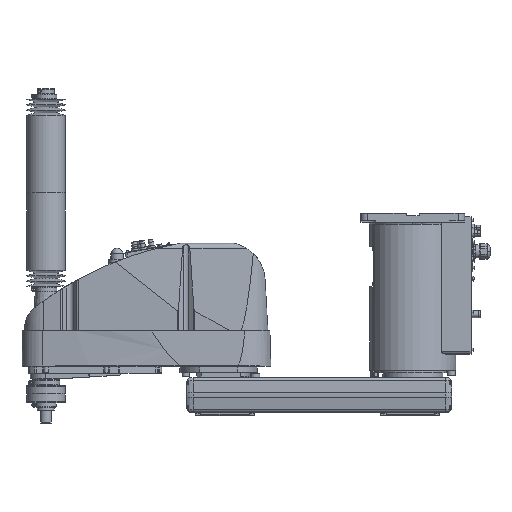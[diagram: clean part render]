
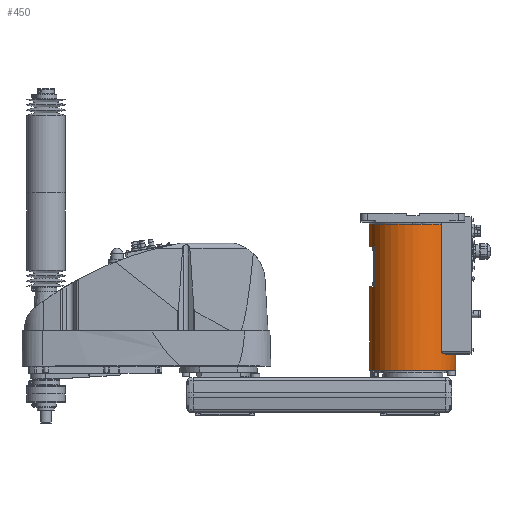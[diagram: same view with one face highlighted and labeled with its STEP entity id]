
A CAD part, top view. The second image highlights one B-rep face of the part: STEP entity #450.
In plain terms, the highlighted cylindrical face has radius 100 mm (diameter 200 mm), a partial arc.
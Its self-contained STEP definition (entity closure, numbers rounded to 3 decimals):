
#450 = ADVANCED_FACE( '', ( #2501 ), #2502, .T. );
#2501 = FACE_OUTER_BOUND( '', #6844, .T. );
#2502 = CYLINDRICAL_SURFACE( '', #6845, 100. );
#6844 = EDGE_LOOP( '', ( #11381, #11382, #11383, #11384, #11385, #11386, #11387, #11388, #11389, #11390, #11391, #11392, #11393, #11394, #11395, #11396 ) );
#6845 = AXIS2_PLACEMENT_3D( '', #11397, #11398, #11399 );
#11381 = ORIENTED_EDGE( '', *, *, #27055, .F. );
#11382 = ORIENTED_EDGE( '', *, *, #27056, .T. );
#11383 = ORIENTED_EDGE( '', *, *, #27057, .T. );
#11384 = ORIENTED_EDGE( '', *, *, #27058, .T. );
#11385 = ORIENTED_EDGE( '', *, *, #27059, .T. );
#11386 = ORIENTED_EDGE( '', *, *, #27060, .T. );
#11387 = ORIENTED_EDGE( '', *, *, #27061, .T. );
#11388 = ORIENTED_EDGE( '', *, *, #27062, .T. );
#11389 = ORIENTED_EDGE( '', *, *, #27063, .T. );
#11390 = ORIENTED_EDGE( '', *, *, #27064, .T. );
#11391 = ORIENTED_EDGE( '', *, *, #27065, .F. );
#11392 = ORIENTED_EDGE( '', *, *, #27066, .T. );
#11393 = ORIENTED_EDGE( '', *, *, #27067, .T. );
#11394 = ORIENTED_EDGE( '', *, *, #27068, .T. );
#11395 = ORIENTED_EDGE( '', *, *, #27069, .F. );
#11396 = ORIENTED_EDGE( '', *, *, #27070, .F. );
#11397 = CARTESIAN_POINT( '', ( 0., 194., 0. ) );
#11398 = DIRECTION( '', ( 0., 1., 0. ) );
#11399 = DIRECTION( '', ( 1., 0., 0. ) );
#27055 = EDGE_CURVE( '', #32088, #32089, #32090, .T. );
#27056 = EDGE_CURVE( '', #32088, #32091, #32092, .T. );
#27057 = EDGE_CURVE( '', #32091, #32093, #32094, .T. );
#27058 = EDGE_CURVE( '', #32093, #32095, #32096, .T. );
#27059 = EDGE_CURVE( '', #32095, #32097, #32098, .T. );
#27060 = EDGE_CURVE( '', #32097, #32099, #32100, .T. );
#27061 = EDGE_CURVE( '', #32099, #32101, #32102, .T. );
#27062 = EDGE_CURVE( '', #32101, #32103, #32104, .T. );
#27063 = EDGE_CURVE( '', #32103, #32105, #32106, .T. );
#27064 = EDGE_CURVE( '', #32105, #32107, #32108, .T. );
#27065 = EDGE_CURVE( '', #32109, #32107, #32110, .T. );
#27066 = EDGE_CURVE( '', #32109, #32111, #32112, .T. );
#27067 = EDGE_CURVE( '', #32111, #32113, #32114, .T. );
#27068 = EDGE_CURVE( '', #32113, #32115, #32116, .T. );
#27069 = EDGE_CURVE( '', #32117, #32115, #32118, .T. );
#27070 = EDGE_CURVE( '', #32089, #32117, #32119, .T. );
#32088 = VERTEX_POINT( '', #40214 );
#32089 = VERTEX_POINT( '', #40215 );
#32090 = LINE( '', #40216, #40217 );
#32091 = VERTEX_POINT( '', #40218 );
#32092 = CIRCLE( '', #40219, 100. );
#32093 = VERTEX_POINT( '', #40220 );
#32094 = LINE( '', #40221, #40222 );
#32095 = VERTEX_POINT( '', #40223 );
#32096 = CIRCLE( '', #40224, 100. );
#32097 = VERTEX_POINT( '', #40225 );
#32098 = LINE( '', #40226, #40227 );
#32099 = VERTEX_POINT( '', #40228 );
#32100 = CIRCLE( '', #40229, 100. );
#32101 = VERTEX_POINT( '', #40230 );
#32102 = B_SPLINE_CURVE_WITH_KNOTS( '', 3, ( #40231, #40232, #40233, #40234, #40235, #40236, #40237, #40238, #40239, #40240, #40241, #40242, #40243, #40244, #40245, #40246, #40247, #40248 ), .UNSPECIFIED., .F., .F., ( 4, 2, 2, 2, 2, 2, 2, 2, 4 ), ( -7.48, -6.36, -5.24, -4.12, -3., -2.25, -1.5, -0.75, 0. ), .UNSPECIFIED. );
#32103 = VERTEX_POINT( '', #40249 );
#32104 = LINE( '', #40250, #40251 );
#32105 = VERTEX_POINT( '', #40252 );
#32106 = CIRCLE( '', #40253, 100. );
#32107 = VERTEX_POINT( '', #40254 );
#32108 = CIRCLE( '', #40255, 100. );
#32109 = VERTEX_POINT( '', #40256 );
#32110 = LINE( '', #40257, #40258 );
#32111 = VERTEX_POINT( '', #40259 );
#32112 = CIRCLE( '', #40260, 100. );
#32113 = VERTEX_POINT( '', #40261 );
#32114 = LINE( '', #40262, #40263 );
#32115 = VERTEX_POINT( '', #40264 );
#32116 = CIRCLE( '', #40265, 100. );
#32117 = VERTEX_POINT( '', #40266 );
#32118 = LINE( '', #40267, #40268 );
#32119 = CIRCLE( '', #40269, 100. );
#40214 = CARTESIAN_POINT( '', ( 100., 64., 0. ) );
#40215 = CARTESIAN_POINT( '', ( 100., 25., 0. ) );
#40216 = CARTESIAN_POINT( '', ( 100., 194., 0. ) );
#40217 = VECTOR( '', #53765, 1. );
#40218 = CARTESIAN_POINT( '', ( 89.303, 64., 45. ) );
#40219 = AXIS2_PLACEMENT_3D( '', #53766, #53767, #53768 );
#40220 = CARTESIAN_POINT( '', ( 89.303, 62., 45. ) );
#40221 = CARTESIAN_POINT( '', ( 89.303, 63., 45. ) );
#40222 = VECTOR( '', #53769, 1. );
#40223 = CARTESIAN_POINT( '', ( 75.993, 62., 65. ) );
#40224 = AXIS2_PLACEMENT_3D( '', #53770, #53771, #53772 );
#40225 = CARTESIAN_POINT( '', ( 75.993, 64., 65. ) );
#40226 = CARTESIAN_POINT( '', ( 75.993, 63., 65. ) );
#40227 = VECTOR( '', #53773, 1. );
#40228 = CARTESIAN_POINT( '', ( 70.42, 64., 71. ) );
#40229 = AXIS2_PLACEMENT_3D( '', #53774, #53775, #53776 );
#40230 = CARTESIAN_POINT( '', ( 66.144, 68., 75. ) );
#40231 = CARTESIAN_POINT( '', ( 70.42, 64., 71. ) );
#40232 = CARTESIAN_POINT( '', ( 70.155, 64., 71.263 ) );
#40233 = CARTESIAN_POINT( '', ( 69.877, 64.026, 71.535 ) );
#40234 = CARTESIAN_POINT( '', ( 69.316, 64.139, 72.08 ) );
#40235 = CARTESIAN_POINT( '', ( 69.031, 64.224, 72.352 ) );
#40236 = CARTESIAN_POINT( '', ( 68.475, 64.457, 72.879 ) );
#40237 = CARTESIAN_POINT( '', ( 68.203, 64.604, 73.134 ) );
#40238 = CARTESIAN_POINT( '', ( 67.688, 64.954, 73.61 ) );
#40239 = CARTESIAN_POINT( '', ( 67.446, 65.158, 73.831 ) );
#40240 = CARTESIAN_POINT( '', ( 67.082, 65.542, 74.162 ) );
#40241 = CARTESIAN_POINT( '', ( 66.938, 65.716, 74.292 ) );
#40242 = CARTESIAN_POINT( '', ( 66.674, 66.103, 74.529 ) );
#40243 = CARTESIAN_POINT( '', ( 66.555, 66.315, 74.636 ) );
#40244 = CARTESIAN_POINT( '', ( 66.356, 66.766, 74.812 ) );
#40245 = CARTESIAN_POINT( '', ( 66.277, 67.005, 74.882 ) );
#40246 = CARTESIAN_POINT( '', ( 66.171, 67.497, 74.976 ) );
#40247 = CARTESIAN_POINT( '', ( 66.144, 67.75, 75. ) );
#40248 = CARTESIAN_POINT( '', ( 66.144, 68., 75. ) );
#40249 = CARTESIAN_POINT( '', ( 66.144, 363., 75. ) );
#40250 = CARTESIAN_POINT( '', ( 66.144, 215.5, 75. ) );
#40251 = VECTOR( '', #53777, 1. );
#40252 = CARTESIAN_POINT( '', ( 0., 363., 100. ) );
#40253 = AXIS2_PLACEMENT_3D( '', #53778, #53779, #53780 );
#40254 = CARTESIAN_POINT( '', ( -100., 363., 0. ) );
#40255 = AXIS2_PLACEMENT_3D( '', #53781, #53782, #53783 );
#40256 = CARTESIAN_POINT( '', ( -100., 311.3, 0. ) );
#40257 = CARTESIAN_POINT( '', ( -100., 194., 0. ) );
#40258 = VECTOR( '', #53784, 1. );
#40259 = CARTESIAN_POINT( '', ( -88., 311.3, 47.497 ) );
#40260 = AXIS2_PLACEMENT_3D( '', #53785, #53786, #53787 );
#40261 = CARTESIAN_POINT( '', ( -88., 218.3, 47.497 ) );
#40262 = CARTESIAN_POINT( '', ( -88., 264.8, 47.497 ) );
#40263 = VECTOR( '', #53788, 1. );
#40264 = CARTESIAN_POINT( '', ( -100., 218.3, 0. ) );
#40265 = AXIS2_PLACEMENT_3D( '', #53789, #53790, #53791 );
#40266 = CARTESIAN_POINT( '', ( -100., 25., 0. ) );
#40267 = CARTESIAN_POINT( '', ( -100., 194., 0. ) );
#40268 = VECTOR( '', #53792, 1. );
#40269 = AXIS2_PLACEMENT_3D( '', #53793, #53794, #53795 );
#53765 = DIRECTION( '', ( 0., -1., 0. ) );
#53766 = CARTESIAN_POINT( '', ( 0., 64., 0. ) );
#53767 = DIRECTION( '', ( 0., -1., 0. ) );
#53768 = DIRECTION( '', ( 1., 0., 0. ) );
#53769 = DIRECTION( '', ( 0., -1., 0. ) );
#53770 = CARTESIAN_POINT( '', ( 0., 62., 0. ) );
#53771 = DIRECTION( '', ( 0., -1., 0. ) );
#53772 = DIRECTION( '', ( 1., 0., 0. ) );
#53773 = DIRECTION( '', ( 0., 1., 0. ) );
#53774 = CARTESIAN_POINT( '', ( 0., 64., 0. ) );
#53775 = DIRECTION( '', ( 0., -1., 0. ) );
#53776 = DIRECTION( '', ( 1., 0., 0. ) );
#53777 = DIRECTION( '', ( 0., 1., 0. ) );
#53778 = CARTESIAN_POINT( '', ( 0., 363., 0. ) );
#53779 = DIRECTION( '', ( 0., -1., 0. ) );
#53780 = DIRECTION( '', ( 1., 0., 0. ) );
#53781 = CARTESIAN_POINT( '', ( 0., 363., 0. ) );
#53782 = DIRECTION( '', ( 0., -1., 0. ) );
#53783 = DIRECTION( '', ( 1., 0., 0. ) );
#53784 = DIRECTION( '', ( 0., 1., 0. ) );
#53785 = CARTESIAN_POINT( '', ( 0., 311.3, 0. ) );
#53786 = DIRECTION( '', ( 0., 1., 0. ) );
#53787 = DIRECTION( '', ( 1., 0., 0. ) );
#53788 = DIRECTION( '', ( 0., -1., 0. ) );
#53789 = CARTESIAN_POINT( '', ( 0., 218.3, 0. ) );
#53790 = DIRECTION( '', ( 0., -1., 0. ) );
#53791 = DIRECTION( '', ( 1., 0., 0. ) );
#53792 = DIRECTION( '', ( 0., 1., 0. ) );
#53793 = CARTESIAN_POINT( '', ( 0., 25., 0. ) );
#53794 = DIRECTION( '', ( 0., -1., 0. ) );
#53795 = DIRECTION( '', ( 1., 0., 0. ) );
